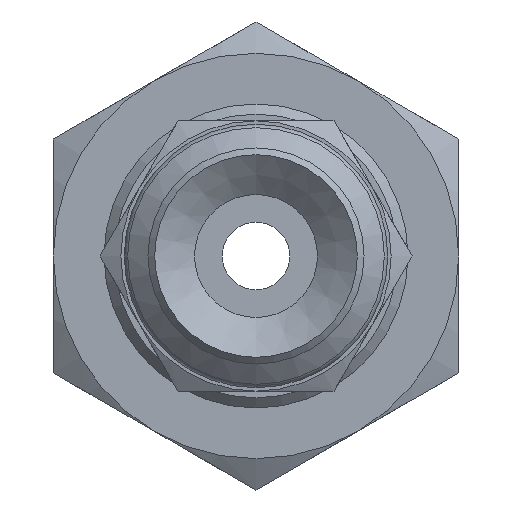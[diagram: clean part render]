
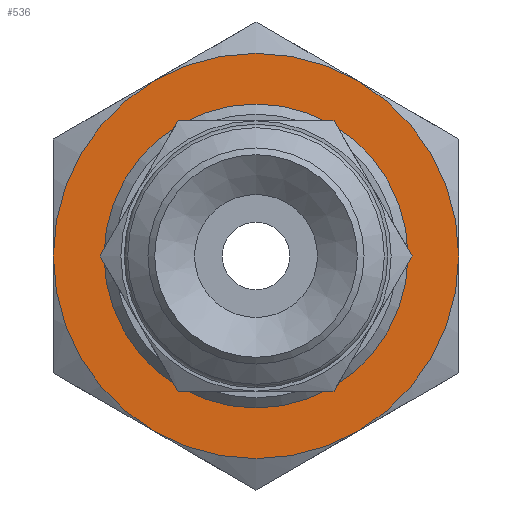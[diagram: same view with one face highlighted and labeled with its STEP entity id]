
A CAD part, front view. The second image highlights one B-rep face of the part: STEP entity #536.
In plain terms, the highlighted planar face has unit normal (0, -1, 0) as drawn and (0, 0, 1) by its records, which use the part's own axes.
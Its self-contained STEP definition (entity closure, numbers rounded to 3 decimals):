
#536=ADVANCED_FACE('',(#717,#718),#719,.T.);
#717=FACE_BOUND('',#1074,.T.);
#718=FACE_OUTER_BOUND('',#1075,.T.);
#719=PLANE('',#1076);
#1074=EDGE_LOOP('',(#1601));
#1075=EDGE_LOOP('',(#1602,#1603,#1604,#1605,#1606,#1607));
#1076=AXIS2_PLACEMENT_3D('',#1608,#1609,#1610);
#1601=ORIENTED_EDGE('',*,*,#2279,.T.);
#1602=ORIENTED_EDGE('',*,*,#2280,.T.);
#1603=ORIENTED_EDGE('',*,*,#2256,.T.);
#1604=ORIENTED_EDGE('',*,*,#2278,.T.);
#1605=ORIENTED_EDGE('',*,*,#2248,.T.);
#1606=ORIENTED_EDGE('',*,*,#2281,.T.);
#1607=ORIENTED_EDGE('',*,*,#2267,.T.);
#1608=CARTESIAN_POINT('',(-6.928,-6.0,3.0));
#1609=DIRECTION('',(0.0,0.0,1.0));
#1610=DIRECTION('',(1.0,0.0,0.0));
#2248=EDGE_CURVE('',#2496,#2487,#2497,.T.);
#2256=EDGE_CURVE('',#2511,#2502,#2512,.T.);
#2267=EDGE_CURVE('',#2530,#2521,#2531,.T.);
#2278=EDGE_CURVE('',#2502,#2496,#2546,.T.);
#2279=EDGE_CURVE('',#2547,#2547,#2548,.T.);
#2280=EDGE_CURVE('',#2521,#2511,#2549,.T.);
#2281=EDGE_CURVE('',#2487,#2530,#2550,.T.);
#2487=VERTEX_POINT('',#2944);
#2496=VERTEX_POINT('',#2966);
#2497=CIRCLE('',#2967,6.0);
#2502=VERTEX_POINT('',#2975);
#2511=VERTEX_POINT('',#3001);
#2512=CIRCLE('',#3002,6.0);
#2521=VERTEX_POINT('',#3024);
#2530=VERTEX_POINT('',#3046);
#2531=CIRCLE('',#3047,6.0);
#2546=CIRCLE('',#3084,6.0);
#2547=VERTEX_POINT('',#3085);
#2548=CIRCLE('',#3086,3.925);
#2549=CIRCLE('',#3087,6.0);
#2550=CIRCLE('',#3088,6.0);
#2944=CARTESIAN_POINT('',(-5.196,-3.0,3.0));
#2966=CARTESIAN_POINT('',(-5.196,3.0,3.0));
#2967=AXIS2_PLACEMENT_3D('',#3440,#3441,#3442);
#2975=CARTESIAN_POINT('',(0.,6.0,3.0));
#3001=CARTESIAN_POINT('',(5.196,3.0,3.0));
#3002=AXIS2_PLACEMENT_3D('',#3445,#3446,#3447);
#3024=CARTESIAN_POINT('',(5.196,-3.0,3.0));
#3046=CARTESIAN_POINT('',(0.,-6.0,3.0));
#3047=AXIS2_PLACEMENT_3D('',#3450,#3451,#3452);
#3084=AXIS2_PLACEMENT_3D('',#3465,#3466,#3467);
#3085=CARTESIAN_POINT('',(3.925,0.0,3.0));
#3086=AXIS2_PLACEMENT_3D('',#3468,#3469,#3470);
#3087=AXIS2_PLACEMENT_3D('',#3471,#3472,#3473);
#3088=AXIS2_PLACEMENT_3D('',#3474,#3475,#3476);
#3440=CARTESIAN_POINT('',(0.,0.0,3.0));
#3441=DIRECTION('',(0.0,0.,1.0));
#3442=DIRECTION('',(0.0,-1.0,0.));
#3445=CARTESIAN_POINT('',(0.,0.0,3.0));
#3446=DIRECTION('',(0.0,0.,1.0));
#3447=DIRECTION('',(0.0,-1.0,0.));
#3450=CARTESIAN_POINT('',(0.,0.0,3.0));
#3451=DIRECTION('',(0.0,0.,1.0));
#3452=DIRECTION('',(0.0,-1.0,0.));
#3465=CARTESIAN_POINT('',(0.,0.0,3.0));
#3466=DIRECTION('',(0.0,0.,1.0));
#3467=DIRECTION('',(0.0,-1.0,0.));
#3468=CARTESIAN_POINT('',(0.0,0.0,3.0));
#3469=DIRECTION('',(0.0,0.0,-1.0));
#3470=DIRECTION('',(1.0,0.0,0.0));
#3471=CARTESIAN_POINT('',(0.,0.0,3.0));
#3472=DIRECTION('',(0.0,0.,1.0));
#3473=DIRECTION('',(0.0,-1.0,0.));
#3474=CARTESIAN_POINT('',(0.,0.0,3.0));
#3475=DIRECTION('',(0.0,0.,1.0));
#3476=DIRECTION('',(0.0,-1.0,0.));
